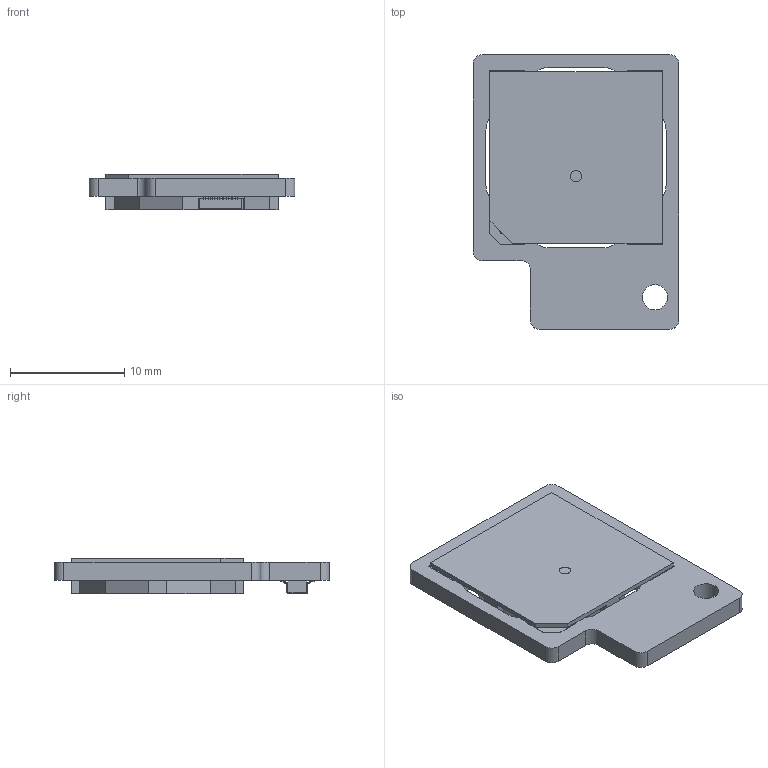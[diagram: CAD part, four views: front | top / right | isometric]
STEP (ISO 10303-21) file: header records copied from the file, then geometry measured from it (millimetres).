
FILE_DESCRIPTION (( 'STEP AP214' ), '1' );
FILE_NAME ('895-200.STEP', '2026-08-14T00:25:38', ( '' ), ( '' ), 'SwSTEP 2.0', 'SolidWorks 2020', '' );
FILE_SCHEMA (( 'AUTOMOTIVE_DESIGN' ));
Length unit declared in the file: millimetre
Products named in the file (5): DGS415 base board; 895-200; Bare sensor no filter; DF40C-12DP; DGS415 base board with connector
Assembly tree (4 placements, depth 3):
  895-200
    DGS415 base board with connector
      DGS415 base board
      DF40C-12DP
    Bare sensor no filter
Bounding box: 18 x 24 x 3.14 mm (x, y, z)
Volume: 785 mm3; surface area: 1310.4 mm2
Topology: 3 solids, 3 shells, 354 faces, 1010 edges, 672 vertices
Faces by surface type: plane 244, cylinder 110
Full cylindrical faces by diameter (mm): 0.495 x11, 0.496 x1, 0.66 x4, 1 x1, 2.2 x1
Entity records: 12636 total; most frequent: CARTESIAN_POINT 2186, ORIENTED_EDGE 1984, DIRECTION 1920, EDGE_CURVE 992, VECTOR 772, LINE 772, VERTEX_POINT 672, AXIS2_PLACEMENT_3D 574
